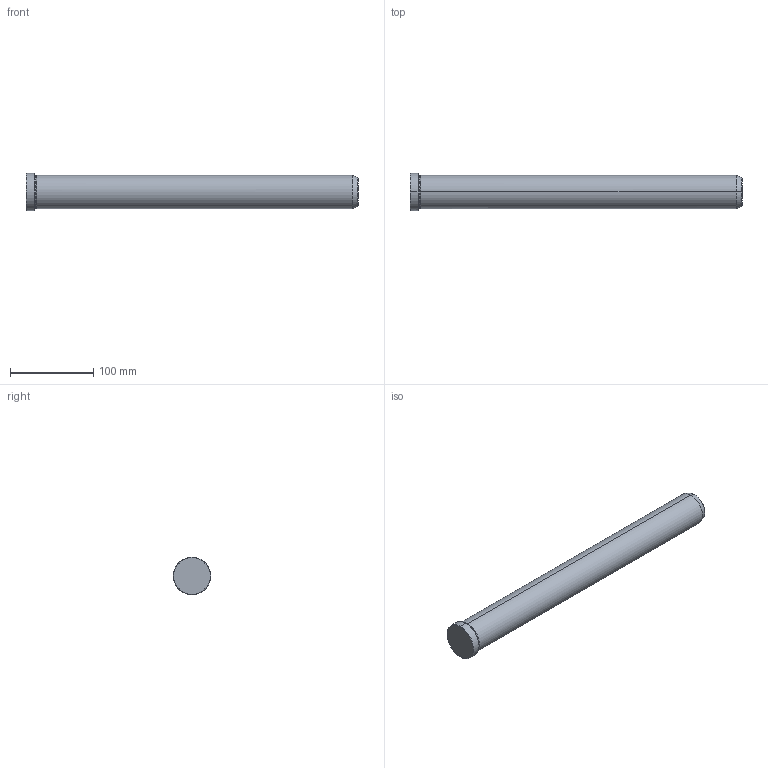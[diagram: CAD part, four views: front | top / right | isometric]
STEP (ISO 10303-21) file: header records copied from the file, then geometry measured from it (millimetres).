
FILE_DESCRIPTION(('CATIA V5 STEP Exchange'),'2;1');
FILE_NAME('C:\Users\Utente\Desktop\IO LAVORO\3D X SITO CF\X SITO\PLASTICA\549\549-40X400.stp','2021-12-18T08:17:37+00:00',('none'),('none'),'CATIA Version 5 Release 20 GA (IN-10)','CATIA V5 STEP AP203','none');
FILE_SCHEMA(('CONFIG_CONTROL_DESIGN'));
Length unit declared in the file: millimetre
Products named in the file (1): 549-40X400
Bounding box: 400 x 45 x 45 mm (x, y, z)
Volume: 504635.1 mm3; surface area: 53278.6 mm2
Topology: 1 solids, 1 shells, 19 faces, 56 edges, 40 vertices
Faces by surface type: cone 8, cylinder 6, plane 3, torus 2
Entity records: 736 total; most frequent: CARTESIAN_POINT 192, ORIENTED_EDGE 112, DIRECTION 86, EDGE_CURVE 56, AXIS2_PLACEMENT_3D 54, VERTEX_POINT 40, CIRCLE 34, EDGE_LOOP 20
